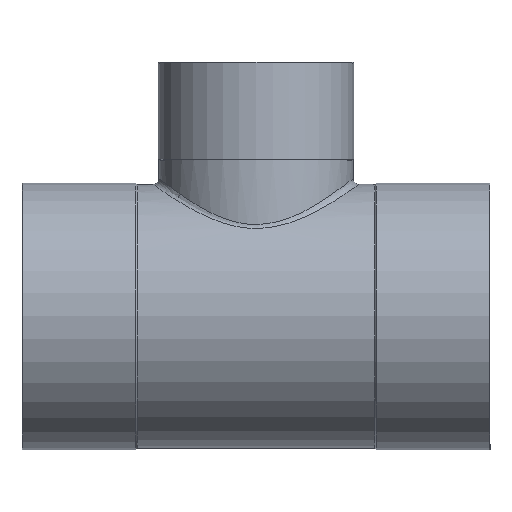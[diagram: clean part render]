
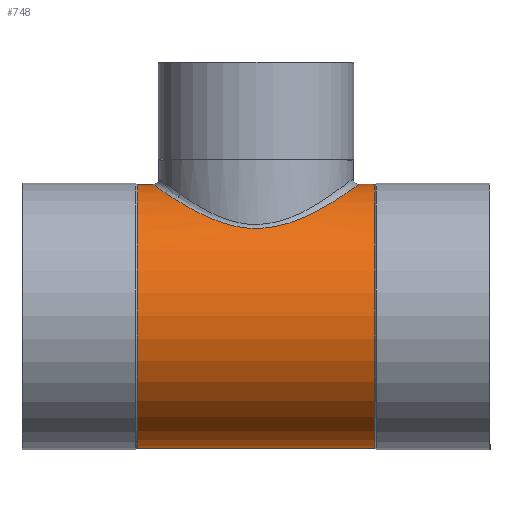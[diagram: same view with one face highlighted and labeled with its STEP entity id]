
A CAD part, top view. The second image highlights one B-rep face of the part: STEP entity #748.
In plain terms, the highlighted cylindrical face has radius 46.25 mm (diameter 92.5 mm), a partial arc.
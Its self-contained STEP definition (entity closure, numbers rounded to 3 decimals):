
#133=CARTESIAN_POINT('',(41.68,46.25,0.0));
#134=VERTEX_POINT('',#133);
#143=CARTESIAN_POINT('',(41.68,-46.25,0.));
#144=VERTEX_POINT('',#143);
#145=CARTESIAN_POINT('',(41.68,0.0,0.0));
#146=DIRECTION('',(1.0,0.0,0.0));
#147=DIRECTION('',(0.0,1.0,0.0));
#148=AXIS2_PLACEMENT_3D('',#145,#146,#147);
#149=CIRCLE('',#148,46.25);
#150=EDGE_CURVE('',#134,#144,#149,.T.);
#177=CARTESIAN_POINT('',(-41.68,46.25,0.0));
#178=VERTEX_POINT('',#177);
#194=CARTESIAN_POINT('',(-41.68,-46.25,0.));
#195=VERTEX_POINT('',#194);
#202=CARTESIAN_POINT('',(-41.68,0.0,0.0));
#203=DIRECTION('',(1.0,0.0,0.0));
#204=DIRECTION('',(0.0,1.0,0.0));
#205=AXIS2_PLACEMENT_3D('',#202,#203,#204);
#206=CIRCLE('',#205,46.25);
#207=EDGE_CURVE('',#178,#195,#206,.T.);
#698=CARTESIAN_POINT('',(20.84,0.0,0.0));
#699=DIRECTION('',(1.0,0.0,0.0));
#700=DIRECTION('',(0.0,1.0,0.0));
#701=AXIS2_PLACEMENT_3D('',#698,#699,#700);
#702=CYLINDRICAL_SURFACE('',#701,46.25);
#703=CARTESIAN_POINT('',(-36.1,46.25,0.));
#704=VERTEX_POINT('',#703);
#705=CARTESIAN_POINT('',(-41.68,46.25,0.0));
#706=DIRECTION('',(1.0,0.0,0.0));
#707=VECTOR('',#706,5.58);
#708=LINE('',#705,#707);
#709=EDGE_CURVE('',#178,#704,#708,.T.);
#710=ORIENTED_EDGE('',*,*,#709,.F.);
#711=ORIENTED_EDGE('',*,*,#207,.T.);
#712=CARTESIAN_POINT('',(41.68,-46.25,0.));
#713=DIRECTION('',(-1.0,0.0,0.0));
#714=VECTOR('',#713,83.36);
#715=LINE('',#712,#714);
#716=EDGE_CURVE('',#144,#195,#715,.T.);
#717=ORIENTED_EDGE('',*,*,#716,.F.);
#718=ORIENTED_EDGE('',*,*,#150,.F.);
#719=CARTESIAN_POINT('',(36.1,46.25,0.));
#720=VERTEX_POINT('',#719);
#721=CARTESIAN_POINT('',(36.1,46.25,0.));
#722=DIRECTION('',(1.0,0.0,0.0));
#723=VECTOR('',#722,5.58);
#724=LINE('',#721,#723);
#725=EDGE_CURVE('',#720,#134,#724,.T.);
#726=ORIENTED_EDGE('',*,*,#725,.F.);
#727=CARTESIAN_POINT('',(-36.1,46.25,0.));
#728=CARTESIAN_POINT('',(-36.1,46.25,0.546));
#729=CARTESIAN_POINT('',(-36.086,46.24,1.092));
#730=CARTESIAN_POINT('',(-35.816,46.048,6.533));
#731=CARTESIAN_POINT('',(-34.461,45.067,11.315));
#732=CARTESIAN_POINT('',(-28.98,41.355,21.732));
#733=CARTESIAN_POINT('',(-24.019,38.066,26.628));
#734=CARTESIAN_POINT('',(-14.195,33.482,32.023));
#735=CARTESIAN_POINT('',(-9.897,31.894,33.508));
#736=CARTESIAN_POINT('',(-0.664,30.463,34.814));
#737=CARTESIAN_POINT('',(4.212,30.754,34.577));
#738=CARTESIAN_POINT('',(17.044,33.952,31.538));
#739=CARTESIAN_POINT('',(23.939,38.191,27.028));
#740=CARTESIAN_POINT('',(33.345,44.203,15.019));
#741=CARTESIAN_POINT('',(36.1,46.25,7.572));
#742=CARTESIAN_POINT('',(36.1,46.25,0.));
#743=B_SPLINE_CURVE_WITH_KNOTS('',3,(#727,#728,#729,#730,#731,#732,#733,#734,#735,#736,#737,#738,#739,#740,#741,#742),.UNSPECIFIED.,.F.,.U.,(4,2,2,2,2,2,2,4),(5.406,5.562,6.964,9.032,10.324,11.616,14.037,16.215),.UNSPECIFIED.);
#744=EDGE_CURVE('',#704,#720,#743,.T.);
#745=ORIENTED_EDGE('',*,*,#744,.F.);
#746=EDGE_LOOP('',(#710,#711,#717,#718,#726,#745));
#747=FACE_OUTER_BOUND('',#746,.T.);
#748=ADVANCED_FACE('',(#747),#702,.T.);
